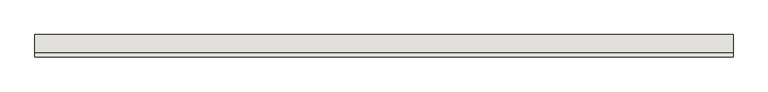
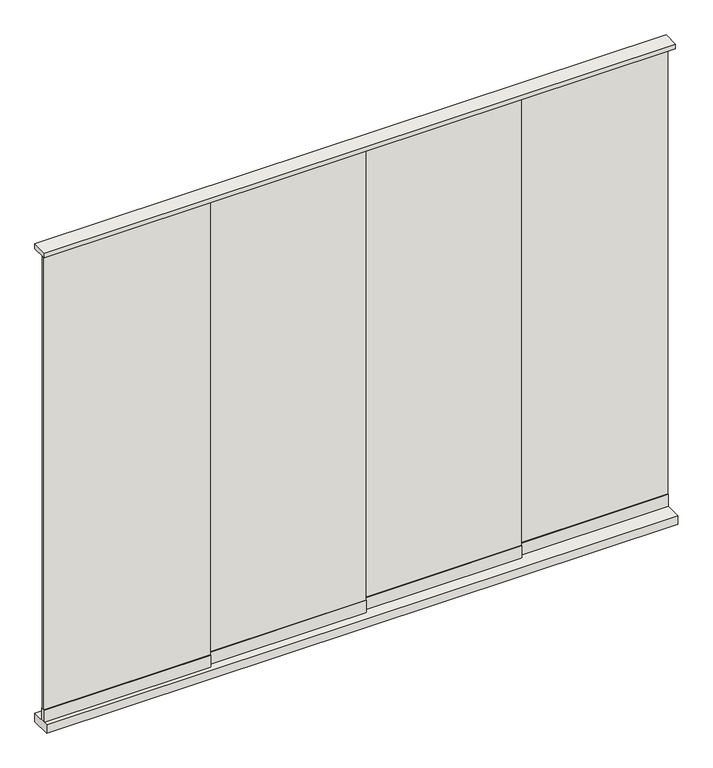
"""IFC4 building model written with IfcOpenShell, lengths in millimetres: wall geometry, Renson_Algarve_Glass_Sliding_Panel : Renson_Algarve_Glass_Sliding_Panel."""

from ifc_helpers import new_model, si_unit, frame, origin, origin_with_axes, place, context, project, spatial, polyline, outline, extrude, source, transform, mapped, element, save


def wall_39287447(model_context):
    return source(origin(), model_context, "Body", "SweptSolid", [
        extrude(outline(polyline([(750.0, 0.0), (750.0, -80.0), (-1750.0, -80.0), (-1750.0, 0.0), (750.0, 0.0)])), origin_with_axes(), (0.0, 0.0, 1.0), 35.0),
        extrude(outline(polyline([(750.0, -3.0), (750.0, -13.0), (125.0, -13.0), (125.0, -3.0), (750.0, -3.0)])), frame((0.0, 0.0, 86.0), z_axis=(0.0, 0.0, 1.0), x_axis=(1.0, 0.0, 0.0)), (0.0, 0.0, 1.0), 1894.0),
        extrude(outline(polyline([(160.0, -19.0), (160.0, -29.0), (-500.0, -29.0), (-500.0, -19.0), (160.0, -19.0)])), frame((0.0, 0.0, 86.0), z_axis=(0.0, 0.0, 1.0), x_axis=(1.0, 0.0, 0.0)), (0.0, 0.0, 1.0), 1894.0),
        extrude(outline(polyline([(-1090.0, -51.0), (-1090.0, -61.0), (-1750.0, -61.0), (-1750.0, -51.0), (-1090.0, -51.0)])), frame((0.0, 0.0, 86.0), z_axis=(0.0, 0.0, 1.0), x_axis=(1.0, 0.0, 0.0)), (0.0, 0.0, 1.0), 1894.0),
        extrude(outline(polyline([(750.0, 0.0), (750.0, -64.0), (-1750.0, -64.0), (-1750.0, 0.0), (750.0, 0.0)])), frame((0.0, 0.0, 1980.0), z_axis=(0.0, 0.0, 1.0), x_axis=(1.0, 0.0, 0.0)), (0.0, 0.0, 1.0), 20.0),
        extrude(outline(polyline([(-1090.0, -48.0), (-1090.0, -64.0), (-1750.0, -64.0), (-1750.0, -48.0), (-1090.0, -48.0)])), frame((0.0, 0.0, 35.0), z_axis=(0.0, 0.0, 1.0), x_axis=(1.0, 0.0, 0.0)), (0.0, 0.0, 1.0), 51.0),
        extrude(outline(polyline([(-465.0, -35.0), (-465.0, -45.0), (-1125.0, -45.0), (-1125.0, -35.0), (-465.0, -35.0)])), frame((0.0, 0.0, 86.0), z_axis=(0.0, 0.0, 1.0), x_axis=(1.0, 0.0, 0.0)), (0.0, 0.0, 1.0), 1894.0),
        extrude(outline(polyline([(750.0, 0.0), (750.0, -16.0), (125.0, -16.0), (125.0, 0.0), (750.0, 0.0)])), frame((0.0, 0.0, 35.0), z_axis=(0.0, 0.0, 1.0), x_axis=(1.0, 0.0, 0.0)), (0.0, 0.0, 1.0), 51.0),
        extrude(outline(polyline([(160.0, -16.0), (160.0, -32.0), (-500.0, -32.0), (-500.0, -16.0), (160.0, -16.0)])), frame((0.0, 0.0, 35.0), z_axis=(0.0, 0.0, 1.0), x_axis=(1.0, 0.0, 0.0)), (0.0, 0.0, 1.0), 51.0),
        extrude(outline(polyline([(-465.0, -32.0), (-465.0, -48.0), (-1125.0, -48.0), (-1125.0, -32.0), (-465.0, -32.0)])), frame((0.0, 0.0, 35.0), z_axis=(0.0, 0.0, 1.0), x_axis=(1.0, 0.0, 0.0)), (0.0, 0.0, 1.0), 51.0),
    ])


if __name__ == "__main__":
    model = new_model("IFC4")
    model_context = context("Model", 3, world=origin())
    ifc_project = project(units=[si_unit("LENGTHUNIT", "METRE", prefix="MILLI")], contexts=[model_context])
    site = spatial("IfcSite", under=ifc_project)
    building = spatial("IfcBuilding", under=site)
    placement = place(None, origin())
    wall_shape = wall_39287447(model_context)
    element("IfcWall", 1, ObjectType="Renson_Algarve_Glass_Sliding_Panel : Renson_Algarve_Glass_Sliding_Panel", at=placement, inside=building, context=model_context, shape_type="MappedRepresentation", body=[
        mapped(wall_shape, transform((0.0, 0.0, 0.0), x_axis=(1.0, 0.0, 0.0), y_axis=(0.0, 1.0, 0.0), z_axis=(0.0, 0.0, 1.0))),
    ])
    save(model, "model.ifc")
